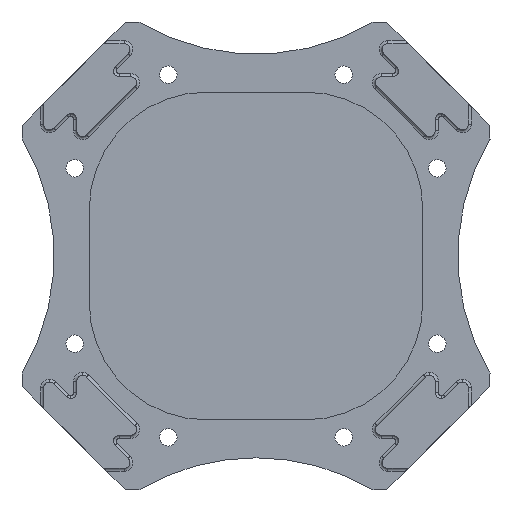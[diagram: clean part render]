
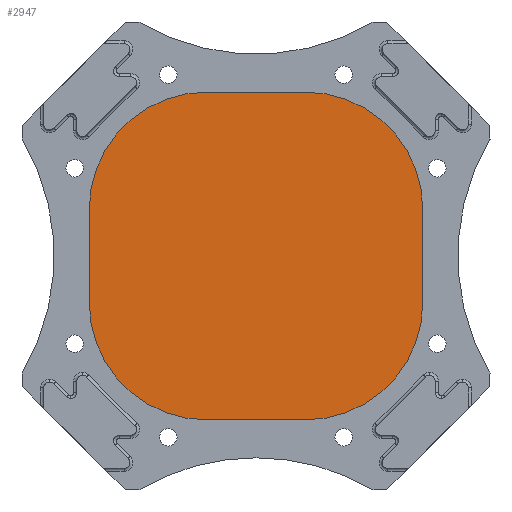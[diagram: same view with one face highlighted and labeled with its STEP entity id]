
A CAD part, front view. The second image highlights one B-rep face of the part: STEP entity #2947.
In plain terms, the highlighted planar face has unit normal (0, -1, 0).
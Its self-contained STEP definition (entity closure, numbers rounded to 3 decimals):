
#149 = EDGE_CURVE ( 'NONE', #4341, #1552, #2878, .T. ) ;
#318 = CIRCLE ( 'NONE', #530, 20. ) ;
#441 = VECTOR ( 'NONE', #5520, 1000. ) ;
#455 = CARTESIAN_POINT ( 'NONE',  ( 28.5, 10., -8. ) ) ;
#530 = AXIS2_PLACEMENT_3D ( 'NONE', #3405, #6479, #4021 ) ;
#627 = AXIS2_PLACEMENT_3D ( 'NONE', #1313, #5487, #1768 ) ;
#653 = CARTESIAN_POINT ( 'NONE',  ( -8.5, 10., 8. ) ) ;
#773 = VERTEX_POINT ( 'NONE', #2487 ) ;
#824 = EDGE_CURVE ( 'NONE', #5827, #5062, #5571, .T. ) ;
#1116 = EDGE_CURVE ( 'NONE', #1552, #4842, #1478, .T. ) ;
#1190 = DIRECTION ( 'NONE',  ( 0., -1., 0. ) ) ;
#1313 = CARTESIAN_POINT ( 'NONE',  ( -8.5, 10., -8. ) ) ;
#1315 = LINE ( 'NONE', #6025, #441 ) ;
#1407 = ORIENTED_EDGE ( 'NONE', *, *, #6107, .T. ) ;
#1470 = EDGE_LOOP ( 'NONE', ( #3615, #3719, #1587, #4346, #2843, #4997, #1407, #4658 ) ) ;
#1478 = CIRCLE ( 'NONE', #2121, 20. ) ;
#1552 = VERTEX_POINT ( 'NONE', #2721 ) ;
#1587 = ORIENTED_EDGE ( 'NONE', *, *, #1116, .T. ) ;
#1677 = EDGE_CURVE ( 'NONE', #773, #4341, #318, .T. ) ;
#1768 = DIRECTION ( 'NONE',  ( 0., 0., -1. ) ) ;
#1845 = EDGE_CURVE ( 'NONE', #4074, #773, #4128, .T. ) ;
#2121 = AXIS2_PLACEMENT_3D ( 'NONE', #5791, #1190, #2779 ) ;
#2157 = CARTESIAN_POINT ( 'NONE',  ( -8.5, 10., 28. ) ) ;
#2214 = VECTOR ( 'NONE', #4054, 1000. ) ;
#2256 = DIRECTION ( 'NONE',  ( 0., 0., -1. ) ) ;
#2376 = FACE_OUTER_BOUND ( 'NONE', #1470, .T. ) ;
#2455 = CARTESIAN_POINT ( 'NONE',  ( 8.5, 10., 8. ) ) ;
#2487 = CARTESIAN_POINT ( 'NONE',  ( -28.5, 10., -8. ) ) ;
#2640 = CARTESIAN_POINT ( 'NONE',  ( -28.5, 10., 8. ) ) ;
#2700 = CARTESIAN_POINT ( 'NONE',  ( 28.5, 10., 8. ) ) ;
#2721 = CARTESIAN_POINT ( 'NONE',  ( 8.5, 10., -28. ) ) ;
#2779 = DIRECTION ( 'NONE',  ( 0., 0., -1. ) ) ;
#2843 = ORIENTED_EDGE ( 'NONE', *, *, #824, .T. ) ;
#2878 = LINE ( 'NONE', #5488, #6127 ) ;
#2947 = ADVANCED_FACE ( 'NONE', ( #2376 ), #5918, .T. ) ;
#3340 = CARTESIAN_POINT ( 'NONE',  ( -8.5, 10., 28. ) ) ;
#3405 = CARTESIAN_POINT ( 'NONE',  ( -8.5, 10., -8. ) ) ;
#3550 = CARTESIAN_POINT ( 'NONE',  ( -28.5, 10., 8. ) ) ;
#3560 = CARTESIAN_POINT ( 'NONE',  ( -8.5, 10., -28. ) ) ;
#3615 = ORIENTED_EDGE ( 'NONE', *, *, #1677, .T. ) ;
#3670 = AXIS2_PLACEMENT_3D ( 'NONE', #2455, #3985, #4517 ) ;
#3719 = ORIENTED_EDGE ( 'NONE', *, *, #149, .T. ) ;
#3985 = DIRECTION ( 'NONE',  ( 0., -1., 0. ) ) ;
#4021 = DIRECTION ( 'NONE',  ( 0., 0., -1. ) ) ;
#4054 = DIRECTION ( 'NONE',  ( 0., 0., -1. ) ) ;
#4061 = AXIS2_PLACEMENT_3D ( 'NONE', #653, #4782, #2256 ) ;
#4074 = VERTEX_POINT ( 'NONE', #2640 ) ;
#4128 = LINE ( 'NONE', #3550, #2214 ) ;
#4228 = EDGE_CURVE ( 'NONE', #4842, #5827, #1315, .T. ) ;
#4341 = VERTEX_POINT ( 'NONE', #3560 ) ;
#4346 = ORIENTED_EDGE ( 'NONE', *, *, #4228, .T. ) ;
#4472 = VERTEX_POINT ( 'NONE', #3340 ) ;
#4517 = DIRECTION ( 'NONE',  ( 0., 0., 1. ) ) ;
#4658 = ORIENTED_EDGE ( 'NONE', *, *, #1845, .T. ) ;
#4782 = DIRECTION ( 'NONE',  ( 0., -1., 0. ) ) ;
#4842 = VERTEX_POINT ( 'NONE', #455 ) ;
#4997 = ORIENTED_EDGE ( 'NONE', *, *, #6147, .T. ) ;
#5062 = VERTEX_POINT ( 'NONE', #6142 ) ;
#5487 = DIRECTION ( 'NONE',  ( 0., -1., 0. ) ) ;
#5488 = CARTESIAN_POINT ( 'NONE',  ( -8.5, 10., -28. ) ) ;
#5520 = DIRECTION ( 'NONE',  ( 0., 0., 1. ) ) ;
#5571 = CIRCLE ( 'NONE', #3670, 20. ) ;
#5572 = CIRCLE ( 'NONE', #4061, 20. ) ;
#5791 = CARTESIAN_POINT ( 'NONE',  ( 8.5, 10., -8. ) ) ;
#5827 = VERTEX_POINT ( 'NONE', #2700 ) ;
#5831 = DIRECTION ( 'NONE',  ( -1., 0., 0. ) ) ;
#5918 = PLANE ( 'NONE',  #627 ) ;
#5953 = DIRECTION ( 'NONE',  ( 1., 0., 0. ) ) ;
#6025 = CARTESIAN_POINT ( 'NONE',  ( 28.5, 10., 8. ) ) ;
#6107 = EDGE_CURVE ( 'NONE', #4472, #4074, #5572, .T. ) ;
#6127 = VECTOR ( 'NONE', #5953, 1000. ) ;
#6142 = CARTESIAN_POINT ( 'NONE',  ( 8.5, 10., 28. ) ) ;
#6147 = EDGE_CURVE ( 'NONE', #5062, #4472, #6335, .T. ) ;
#6309 = VECTOR ( 'NONE', #5831, 1000. ) ;
#6335 = LINE ( 'NONE', #2157, #6309 ) ;
#6479 = DIRECTION ( 'NONE',  ( 0., -1., 0. ) ) ;
